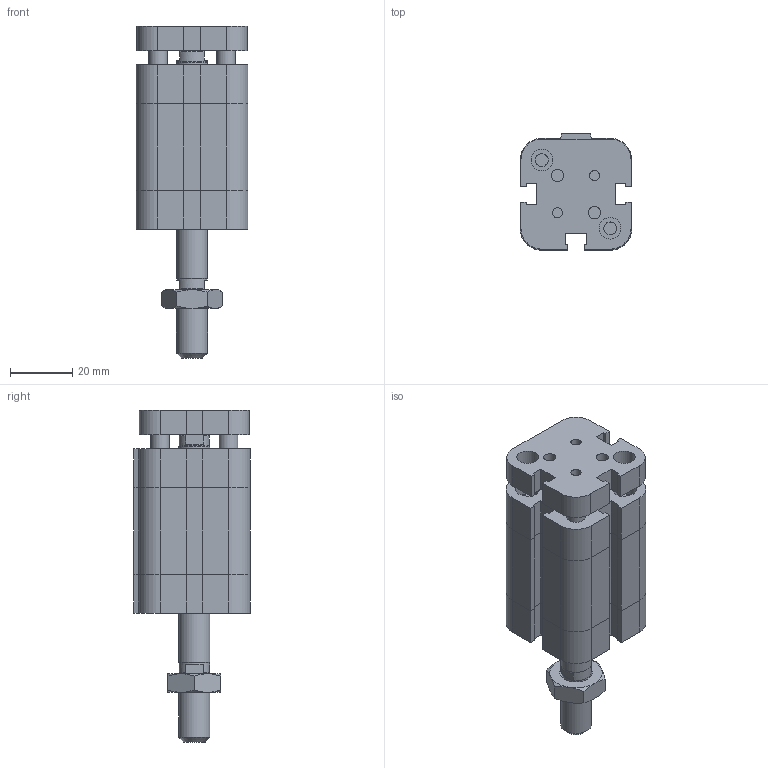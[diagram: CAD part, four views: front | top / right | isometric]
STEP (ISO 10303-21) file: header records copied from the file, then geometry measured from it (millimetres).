
FILE_DESCRIPTION((''),'2;1');
FILE_NAME('I:\Area Tecnica\Disegni\VARIE-3D\Componenti\EUROPE\15##_###_####_09_#\1581_20_0015_09_1.iam.stp','2009-04-20T15:43:03',(''),(''),'Autodesk Inventor 2009','Autodesk Inventor 2009','');
FILE_SCHEMA(('AUTOMOTIVE_DESIGN { 1 0 10303 214 1 1 1 1 }'));
Length unit declared in the file: millimetre
Products named in the file (4): 1581_20_0015_09_1; 1581_20_0015_08_1_C; 1561_20_0015_09_1_SA; DBFM10
Assembly tree (3 placements, depth 2):
  1581_20_0015_09_1
    1581_20_0015_08_1_C
    1561_20_0015_09_1_SA
    DBFM10
Bounding box: 36 x 37.5 x 107 mm (x, y, z)
Volume: 73014.2 mm3; surface area: 25187.8 mm2
Topology: 3 solids, 3 shells, 236 faces, 550 edges, 339 vertices
Faces by surface type: plane 147, bspline 45, cylinder 23, cone 21
Full cylindrical faces by diameter (mm): 6 x2, 8.8 x1, 9.8 x2, 10 x2
Entity records: 6859 total; most frequent: CARTESIAN_POINT 1610, ORIENTED_EDGE 992, DIRECTION 974, EDGE_CURVE 496, VECTOR 350, LINE 350, VERTEX_POINT 322, AXIS2_PLACEMENT_3D 312
